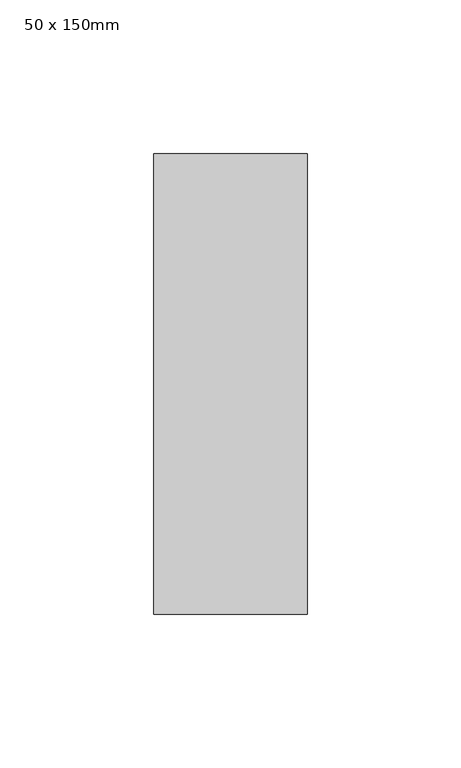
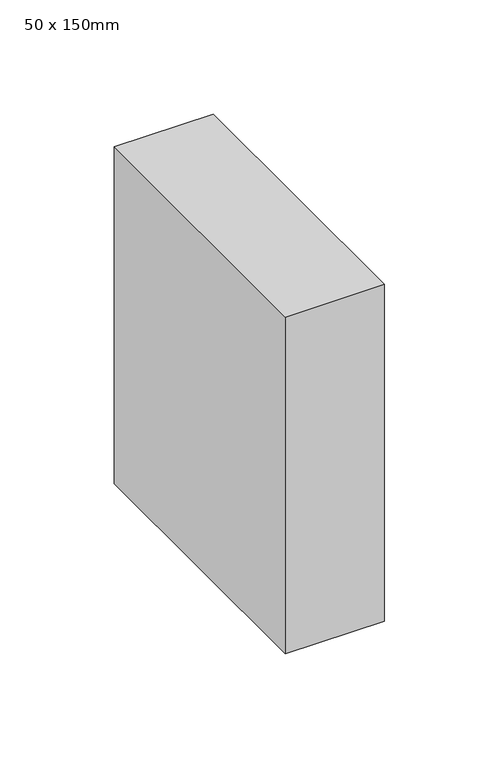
"""IFC4 building model written with IfcOpenShell, lengths in millimetres: member geometry, Прямоугольный импост : 50 x 150mm."""

from ifc_helpers import new_model, si_unit, frame, origin, place, context, project, spatial, polyline, outline, extrude, source, transform, mapped, element, save


def member_50_x_150mm_ca16d66f(model_context):
    return source(origin(), model_context, "Body", "SweptSolid", [
        extrude(outline(polyline([(0.0, 75.0), (0.0, -75.0), (-50.0, -75.0), (-50.0, 75.0), (0.0, 75.0)])), frame((0.0, 0.0, -180.0), z_axis=(0.0, 0.0, 1.0), x_axis=(1.0, 0.0, 0.0)), (0.0, 0.0, 1.0), 180.0),
    ])


if __name__ == "__main__":
    model = new_model("IFC4")
    model_context = context("Model", 3, world=origin())
    ifc_project = project(units=[si_unit("LENGTHUNIT", "METRE", prefix="MILLI")], contexts=[model_context])
    site = spatial("IfcSite", under=ifc_project)
    building = spatial("IfcBuilding", under=site)
    placement = place(None, origin())
    member_50_x_150mm_shape = member_50_x_150mm_ca16d66f(model_context)
    element("IfcMember", 1, ObjectType="Прямоугольный импост : 50 x 150mm", at=placement, inside=building, context=model_context, shape_type="MappedRepresentation", body=[
        mapped(member_50_x_150mm_shape, transform((0.0, 0.0, 0.0), x_axis=(1.0, 0.0, 0.0), y_axis=(0.0, 1.0, 0.0), z_axis=(0.0, 0.0, 1.0))),
    ])
    save(model, "model.ifc")
